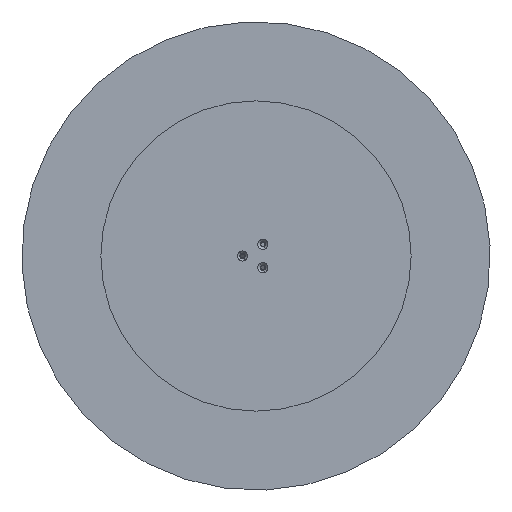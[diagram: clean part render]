
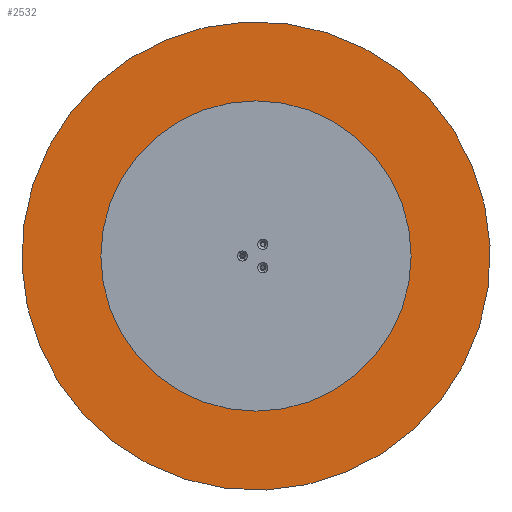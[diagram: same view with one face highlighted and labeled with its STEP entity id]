
A CAD part, front view. The second image highlights one B-rep face of the part: STEP entity #2532.
In plain terms, the highlighted planar face has unit normal (0, -1, 0).
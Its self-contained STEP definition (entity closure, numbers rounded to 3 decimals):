
#155 = DIRECTION ( 'NONE',  ( 0., -1., 0. ) ) ;
#654 = AXIS2_PLACEMENT_3D ( 'NONE', #5257, #155, #6238 ) ;
#696 = DIRECTION ( 'NONE',  ( 0., 0., -1. ) ) ;
#1165 = VERTEX_POINT ( 'NONE', #4604 ) ;
#1189 = DIRECTION ( 'NONE',  ( 0., -1., 0. ) ) ;
#1354 = CARTESIAN_POINT ( 'NONE',  ( 0., 0., -400. ) ) ;
#1786 = DIRECTION ( 'NONE',  ( 0., 0., -1. ) ) ;
#1853 = DIRECTION ( 'NONE',  ( 0., -1., 0. ) ) ;
#2532 = ADVANCED_FACE ( 'NONE', ( #2762 ), #4203, .T. ) ;
#2594 = CIRCLE ( 'NONE', #3432, 400. ) ;
#2693 = CARTESIAN_POINT ( 'NONE',  ( 0., 0., 0. ) ) ;
#2762 = FACE_OUTER_BOUND ( 'NONE', #3813, .T. ) ;
#3134 = CIRCLE ( 'NONE', #5870, 400. ) ;
#3432 = AXIS2_PLACEMENT_3D ( 'NONE', #3694, #1189, #696 ) ;
#3694 = CARTESIAN_POINT ( 'NONE',  ( 0., 0., 0. ) ) ;
#3813 = EDGE_LOOP ( 'NONE', ( #4569, #6451 ) ) ;
#4203 = PLANE ( 'NONE',  #654 ) ;
#4514 = EDGE_CURVE ( 'NONE', #5582, #1165, #3134, .T. ) ;
#4569 = ORIENTED_EDGE ( 'NONE', *, *, #4514, .T. ) ;
#4604 = CARTESIAN_POINT ( 'NONE',  ( 0., 0., 400. ) ) ;
#5257 = CARTESIAN_POINT ( 'NONE',  ( 0., 0., 0. ) ) ;
#5439 = EDGE_CURVE ( 'NONE', #1165, #5582, #2594, .T. ) ;
#5582 = VERTEX_POINT ( 'NONE', #1354 ) ;
#5870 = AXIS2_PLACEMENT_3D ( 'NONE', #2693, #1853, #1786 ) ;
#6238 = DIRECTION ( 'NONE',  ( 0., 0., -1. ) ) ;
#6451 = ORIENTED_EDGE ( 'NONE', *, *, #5439, .T. ) ;
